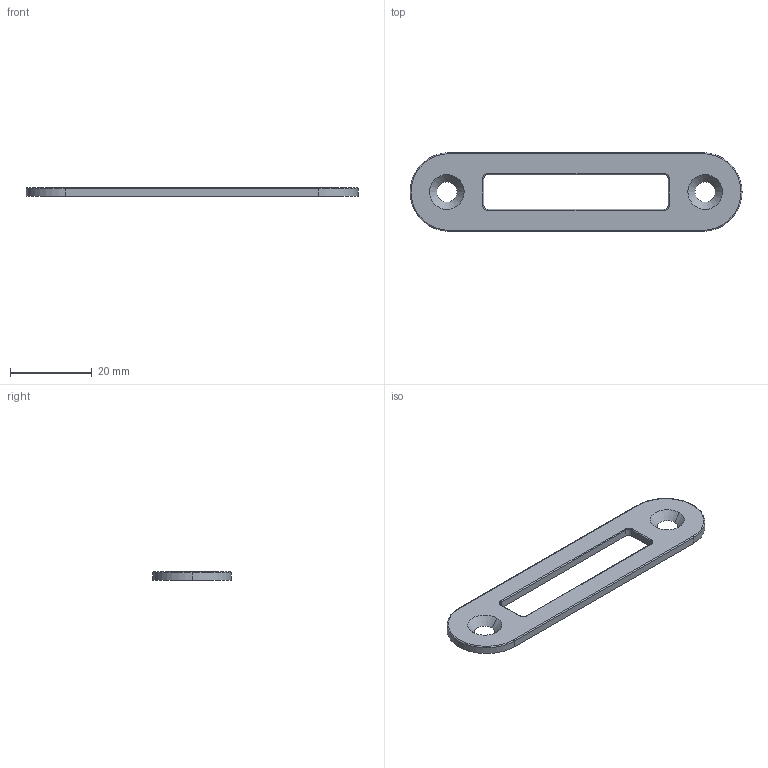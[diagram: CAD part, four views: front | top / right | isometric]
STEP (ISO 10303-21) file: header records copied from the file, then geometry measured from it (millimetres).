
FILE_DESCRIPTION (( 'STEP AP214' ), '1' );
FILE_NAME ('TPL-W-033 double plate 04June2025.STEP', '2025-06-04T01:19:40', ( '' ), ( '' ), 'SwSTEP 2.0', 'SolidWorks 2023', '' );
FILE_SCHEMA (( 'AUTOMOTIVE_DESIGN' ));
Length unit declared in the file: millimetre
Products named in the file (1): TPL-W-033 double plate 04June2025
Bounding box: 81 x 19.2 x 2 mm (x, y, z)
Volume: 2041.1 mm3; surface area: 2697.5 mm2
Topology: 1 solids, 1 shells, 32 faces, 78 edges, 48 vertices
Faces by surface type: cylinder 13, plane 8, torus 7, cone 4
Entity records: 984 total; most frequent: DIRECTION 187, CARTESIAN_POINT 159, ORIENTED_EDGE 156, EDGE_CURVE 78, AXIS2_PLACEMENT_3D 76, VERTEX_POINT 48, CIRCLE 43, EDGE_LOOP 38
